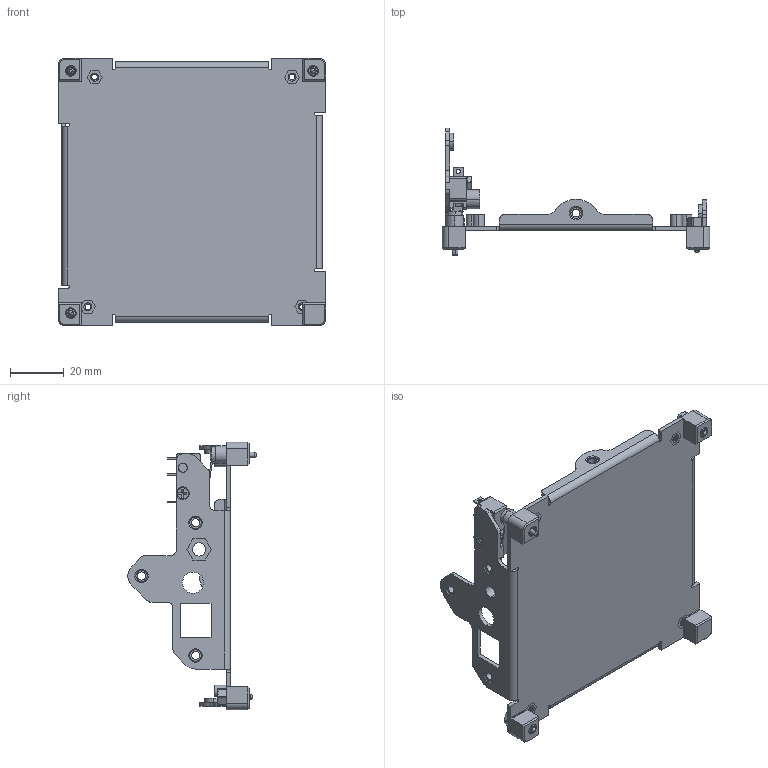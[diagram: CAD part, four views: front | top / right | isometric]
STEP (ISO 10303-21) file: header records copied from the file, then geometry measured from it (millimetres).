
FILE_DESCRIPTION (( 'STEP AP214' ), '1' );
FILE_NAME ('710-00293-D2 Base Plate, Solid, Single Switch.STEP', '2017-11-13T20:36:43', ( '' ), ( '' ), 'SwSTEP 2.0', 'SolidWorks 2014', '' );
FILE_SCHEMA (( 'AUTOMOTIVE_DESIGN' ));
Length unit declared in the file: inch
Products named in the file (2): 710-00293-D2 Base Plate, Solid, Single Switch
Bounding box: 100 x 47.84 x 100 mm (x, y, z)
Volume: 22130.4 mm3; surface area: 29266.3 mm2
Topology: 1 solids, 39 shells, 1262 faces, 3068 edges, 1854 vertices
Faces by surface type: cone 548, plane 384, cylinder 308, torus 14, sphere 8
Entity records: 39053 total; most frequent: DIRECTION 6872, CARTESIAN_POINT 6549, ORIENTED_EDGE 6128, EDGE_CURVE 3064, AXIS2_PLACEMENT_3D 2629, VERTEX_POINT 1854, VECTOR 1614, LINE 1614
